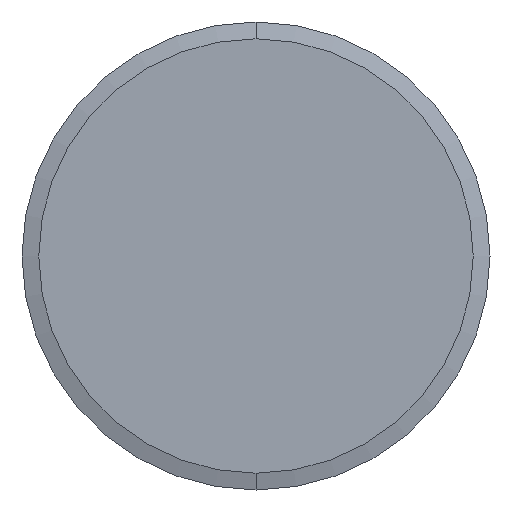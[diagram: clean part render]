
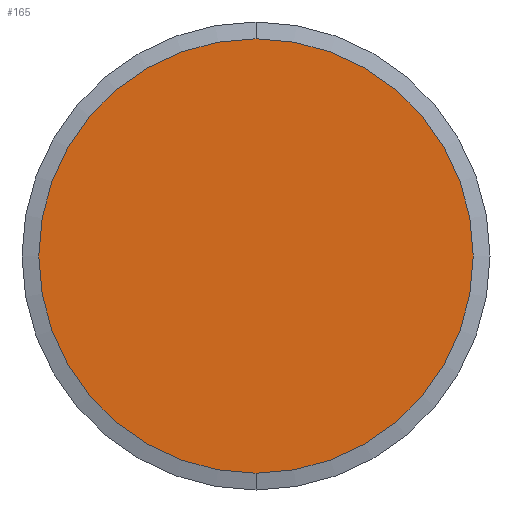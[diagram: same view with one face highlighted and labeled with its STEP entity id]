
A CAD part, front view. The second image highlights one B-rep face of the part: STEP entity #165.
In plain terms, the highlighted planar face has unit normal (0, -1, 0).
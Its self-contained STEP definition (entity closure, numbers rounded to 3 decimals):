
#8 = AXIS2_PLACEMENT_3D ( 'NONE', #358, #417, #552 ) ;
#56 = DIRECTION ( 'NONE',  ( 0., 1., 0. ) ) ;
#165 = ADVANCED_FACE ( 'NONE', ( #189 ), #366, .F. ) ;
#167 = CARTESIAN_POINT ( 'NONE',  ( 0., 0., 48.268 ) ) ;
#180 = AXIS2_PLACEMENT_3D ( 'NONE', #686, #56, #506 ) ;
#189 = FACE_OUTER_BOUND ( 'NONE', #239, .T. ) ;
#239 = EDGE_LOOP ( 'NONE', ( #754, #684 ) ) ;
#246 = CIRCLE ( 'NONE', #8, 48.268 ) ;
#310 = DIRECTION ( 'NONE',  ( 0., -1., 0. ) ) ;
#358 = CARTESIAN_POINT ( 'NONE',  ( 0., 0., 0. ) ) ;
#361 = EDGE_CURVE ( 'NONE', #370, #449, #246, .T. ) ;
#366 = PLANE ( 'NONE',  #180 ) ;
#370 = VERTEX_POINT ( 'NONE', #167 ) ;
#417 = DIRECTION ( 'NONE',  ( 0., -1., 0. ) ) ;
#427 = CIRCLE ( 'NONE', #498, 48.268 ) ;
#449 = VERTEX_POINT ( 'NONE', #619 ) ;
#498 = AXIS2_PLACEMENT_3D ( 'NONE', #693, #310, #753 ) ;
#506 = DIRECTION ( 'NONE',  ( 0., 0., 1. ) ) ;
#552 = DIRECTION ( 'NONE',  ( 0., 0., -1. ) ) ;
#619 = CARTESIAN_POINT ( 'NONE',  ( 0., 0., -48.268 ) ) ;
#684 = ORIENTED_EDGE ( 'NONE', *, *, #735, .T. ) ;
#686 = CARTESIAN_POINT ( 'NONE',  ( 0., 0., 0. ) ) ;
#693 = CARTESIAN_POINT ( 'NONE',  ( 0., 0., 0. ) ) ;
#735 = EDGE_CURVE ( 'NONE', #449, #370, #427, .T. ) ;
#753 = DIRECTION ( 'NONE',  ( 0., 0., -1. ) ) ;
#754 = ORIENTED_EDGE ( 'NONE', *, *, #361, .T. ) ;
